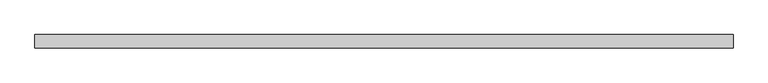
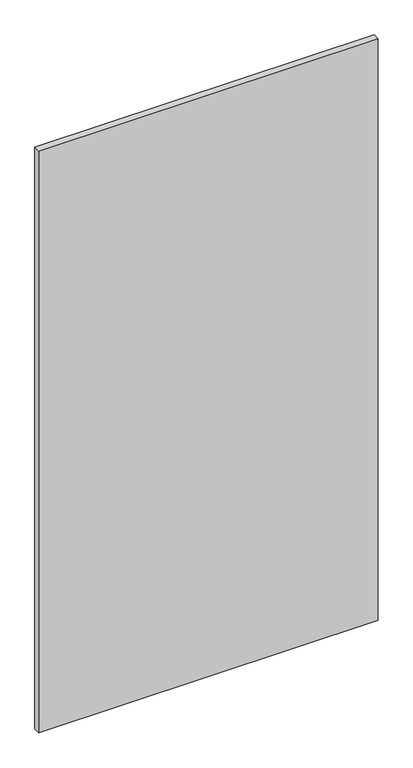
"""IFC4 building model written with IfcOpenShell, lengths in millimetres: plate geometry, システム パネル : ガラス."""

from ifc_helpers import new_model, si_unit, origin, origin_with_axes, place, context, project, spatial, polyline, outline, extrude, source, transform, mapped, element, save


def plate_265bd5af(model_context):
    return source(origin(), model_context, "Body", "SweptSolid", [
        extrude(outline(polyline([(662.5000001, -49.5), (-662.5000001, -49.5), (-662.5000001, -24.5), (662.5000001, -24.5), (662.5000001, -49.5)])), origin_with_axes(), (0.0, 0.0, 1.0), 2400.0),
    ])


if __name__ == "__main__":
    model = new_model("IFC4")
    model_context = context("Model", 3, world=origin())
    ifc_project = project(units=[si_unit("LENGTHUNIT", "METRE", prefix="MILLI")], contexts=[model_context])
    site = spatial("IfcSite", under=ifc_project)
    building = spatial("IfcBuilding", under=site)
    placement = place(None, origin())
    plate_shape = plate_265bd5af(model_context)
    element("IfcPlate", 1, ObjectType="システム パネル : ガラス", at=placement, inside=building, context=model_context, shape_type="MappedRepresentation", body=[
        mapped(plate_shape, transform((0.0, 0.0, 0.0), x_axis=(1.0, 0.0, 0.0), y_axis=(0.0, 1.0, 0.0), z_axis=(0.0, 0.0, 1.0))),
    ])
    save(model, "model.ifc")
